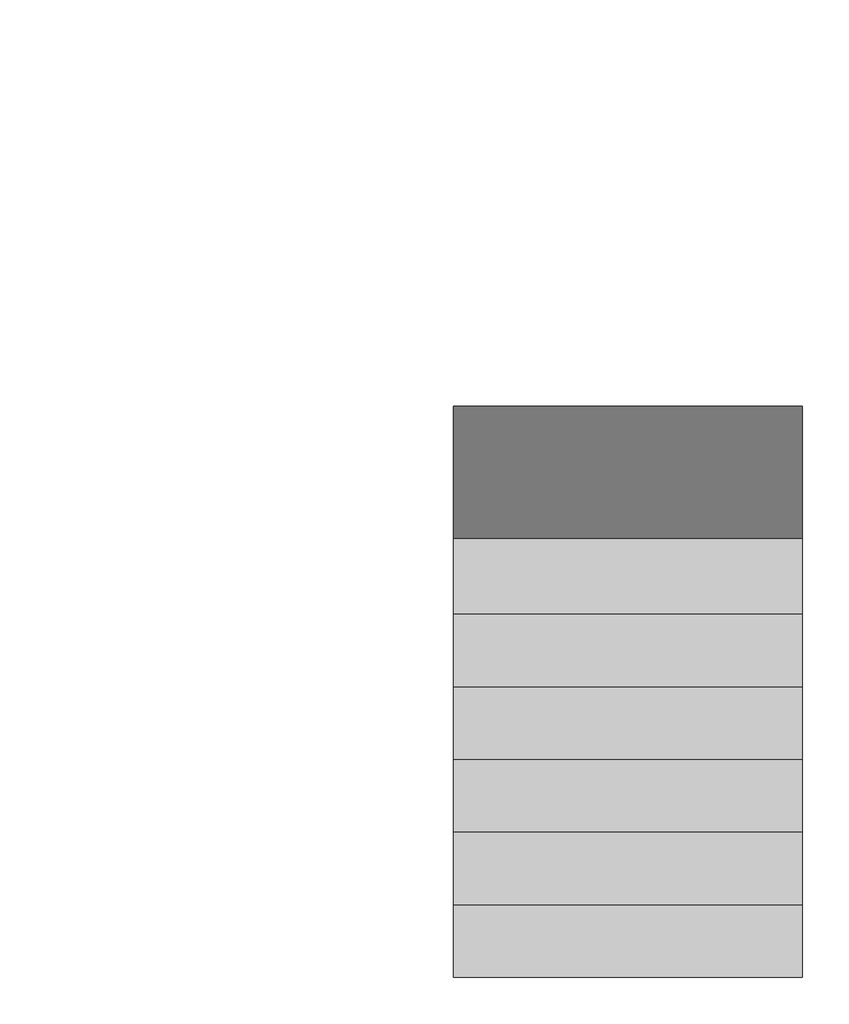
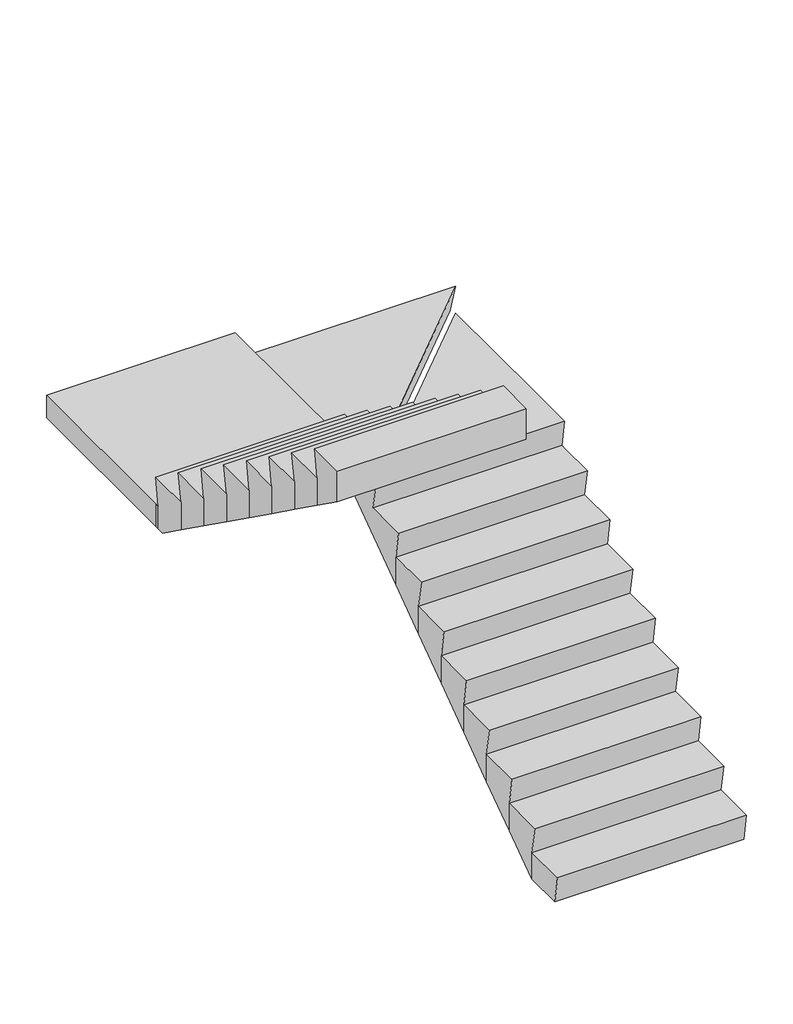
# One storey: 1 stair flight.
"""IFC4 building model written with IfcOpenShell, lengths in millimetres."""

from ifc_helpers import new_model, si_unit, origin, place, context, project, spatial, faceted_brep, element, save

model = new_model("IFC4")

# Units and contexts
model_context = context("Model", 3, world=origin())
ifc_project = project(units=[si_unit("LENGTHUNIT", "METRE", prefix="MILLI")], contexts=[model_context])

# Site, building, storey
site = spatial("IfcSite", under=ifc_project)
building = spatial("IfcBuilding", under=site)
storey = spatial("IfcBuildingStorey", under=building, Name="樓層 1", Elevation=0.0)

# Stair flight
placement = place(None, origin())
element("IfcStairFlight", 1, ObjectType="20mm 踏板 30mm 突沿 10mm 豎板", at=placement, inside=storey, context=model_context, shape_type="Brep", body=[
    faceted_brep([(-1079.3711497, -4219.2158264, 178.9473684), (-2279.3711497, -4219.2158264, 178.9473684), (-2279.3711497, -4189.2158264, 0.0), (-1079.3711497, -4189.2158264, 0.0), (-1079.3711497, -3939.2158264, 178.9473684), (-2279.3711497, -3939.2158264, 178.9473684), (-2279.3711497, -3939.2158264, 0.0), (-1079.3711497, -3939.2158264, 0.0), (-2279.3711497, -3969.2158264, 357.8947368), (-1079.3711497, -3969.2158264, 357.8947368), (-1079.3711497, -3689.2158264, 357.8947368), (-2279.3711497, -3689.2158264, 357.8947368), (-2279.3711497, -3689.2158264, 173.4279977), (-2279.3711497, -3931.5049409, 0.0), (-1079.3711497, -3931.5049409, 0.0), (-1079.3711497, -3689.2158264, 173.4279977), (-2279.3711497, -3719.2158264, 536.8421053), (-1079.3711497, -3719.2158264, 536.8421053), (-1079.3711497, -3439.2158264, 536.8421053), (-2279.3711497, -3439.2158264, 536.8421053), (-2279.3711497, -3439.2158264, 352.3753661), (-1079.3711497, -3439.2158264, 352.3753661), (-2279.3711497, -3469.2158264, 715.7894737), (-1079.3711497, -3469.2158264, 715.7894737), (-1079.3711497, -3189.2158264, 715.7894737), (-2279.3711497, -3189.2158264, 715.7894737), (-2279.3711497, -3189.2158264, 531.3227346), (-1079.3711497, -3189.2158264, 531.3227346), (-2279.3711497, -3219.2158264, 894.7368421), (-1079.3711497, -3219.2158264, 894.7368421), (-1079.3711497, -2939.2158264, 894.7368421), (-2279.3711497, -2939.2158264, 894.7368421), (-2279.3711497, -2939.2158264, 710.270103), (-1079.3711497, -2939.2158264, 710.270103), (-2279.3711497, -2969.2158264, 1073.6842105), (-1079.3711497, -2969.2158264, 1073.6842105), (-1079.3711497, -2689.2158264, 1073.6842105), (-2279.3711497, -2689.2158264, 1073.6842105), (-2279.3711497, -2689.2158264, 889.2174714), (-1079.3711497, -2689.2158264, 889.2174714), (-2279.3711497, -2719.2158264, 1252.6315789), (-1079.3711497, -2719.2158264, 1252.6315789), (-1079.3711497, -2439.2158264, 1252.6315789), (-2279.3711497, -2439.2158264, 1252.6315789), (-2279.3711497, -2439.2158264, 1068.1648398), (-1079.3711497, -2439.2158264, 1068.1648398), (-2279.3711497, -2189.2158264, 1431.5789474), (-2279.3711497, -2469.2158264, 1431.5789474), (-1079.3711497, -2469.2158264, 1431.5789474), (-1079.3711497, -2219.2158264, 1431.5789474), (-1079.3711497, -2189.2158264, 1431.5789474), (-2279.3711497, -2219.2158264, 1610.5263158), (-2279.3711497, -2176.7894195, 1610.5263158), (-2279.3711497, -2183.6525148, 1639.4736842), (-2279.3711497, -1891.0637644, 1639.4736842), (-2279.3711497, -1891.0637644, 1460.5263158), (-1079.3711497, -2219.2158264, 1225.638524), (-1079.3711497, -2219.2158264, 1610.5263158), (-1079.3711497, -1891.0637644, 1610.5263158), (-1079.3711497, -1019.2158264, 1610.5263158), (-1951.2190877, -1891.0637644, 1610.5263158), (-1993.6454945, -1891.0637644, 1610.5263158), (-1079.3711497, -2189.2158264, 1247.1122083), (-1079.3711497, -1891.0637644, 1460.5263158), (-1079.3711497, -1019.2158264, 1460.5263158), (-2279.3711497, -2219.2158264, 1789.4736842), (-1079.3711497, -1019.2158264, 1789.4736842), (-2479.3711497, -1019.2158264, 1789.4736842), (-2479.3711497, -2219.2158264, 1789.4736842), (-2479.3711497, -2219.2158264, 1639.4736842), (-2314.9344613, -2219.2158264, 1639.4736842), (-1114.9344613, -1019.2158264, 1639.4736842), (-2479.3711497, -1019.2158264, 1639.4736842), (-1986.7823993, -1891.0637644, 1639.4736842), (-1951.2190877, -1891.0637644, 1460.5263158)], [[[0, 1, 2, 3]], [[1, 0, 4, 5]], [[1, 5, 6, 2]], [[4, 0, 3, 7]], [[8, 9, 10, 11]], [[6, 5, 8, 11, 12, 13]], [[4, 7, 14, 15, 10, 9]], [[5, 4, 9, 8]], [[16, 17, 18, 19]], [[16, 19, 20, 12, 11]], [[18, 17, 10, 15, 21]], [[11, 10, 17, 16]], [[22, 23, 24, 25]], [[22, 25, 26, 20, 19]], [[24, 23, 18, 21, 27]], [[19, 18, 23, 22]], [[28, 29, 30, 31]], [[28, 31, 32, 26, 25]], [[30, 29, 24, 27, 33]], [[25, 24, 29, 28]], [[34, 35, 36, 37]], [[34, 37, 38, 32, 31]], [[36, 35, 30, 33, 39]], [[31, 30, 35, 34]], [[40, 41, 42, 43]], [[40, 43, 44, 38, 37]], [[42, 41, 36, 39, 45]], [[37, 36, 41, 40]], [[46, 47, 48, 49, 50]], [[46, 51, 52, 53, 54, 55, 44, 43, 47]], [[49, 48, 42, 45, 56]], [[43, 42, 48, 47]], [[51, 57, 58, 59, 60, 61, 52]], [[57, 50, 62, 63, 64, 59, 58]], [[46, 50, 57, 51]], [[65, 66, 67, 68]], [[65, 68, 69, 70]], [[67, 66, 71, 72]], [[66, 65, 70, 53, 52, 61, 73, 71]], [[2, 6, 13, 14, 7, 3]], [[44, 55, 74, 63, 62, 56, 45, 39, 33, 27, 21, 15, 14, 13, 12, 20, 26, 32, 38]], [[74, 55, 54, 73, 61, 60]], [[74, 64, 63]], [[64, 74, 60, 59]], [[69, 72, 71, 73, 54, 53, 70]], [[72, 69, 68, 67]], [[50, 49, 56, 62]]]),
    faceted_brep([(-2479.3711497, -2249.2158264, 1968.4210526), (-2479.3711497, -2219.2158264, 1968.4210526), (-2479.3711497, -1019.2158264, 1968.4210526), (-3679.3711497, -1019.2158264, 1968.4210526), (-3679.3711497, -2219.2158264, 1968.4210526), (-3679.3711497, -2249.2158264, 1968.4210526), (-2479.3711497, -2249.2158264, 1818.4210526), (-2479.3711497, -2219.2158264, 1818.4210526), (-2504.5182085, -1019.2158264, 1818.4210526), (-3679.3711497, -1019.2158264, 1818.4210526), (-2504.5182085, -2219.2158264, 1818.4210526), (-2479.3711497, -2219.2158264, 2147.3684211), (-3679.3711497, -2219.2158264, 2147.3684211), (-3679.3711497, -2297.3678884, 2147.3684211), (-3679.3711497, -2499.2158264, 2147.3684211), (-2479.3711497, -2499.2158264, 2147.3684211), (-2479.3711497, -2297.3678884, 2147.3684211), (-2479.3711497, -2499.2158264, 1962.9016819), (-2479.3711497, -2297.3678884, 1818.4210526), (-3679.3711497, -2249.2158264, 1818.4210526), (-3679.3711497, -2297.3678884, 1818.4210526), (-3679.3711497, -2499.2158264, 1962.9016819), (-2479.3711497, -2469.2158264, 2326.3157895), (-3679.3711497, -2469.2158264, 2326.3157895), (-3679.3711497, -2749.2158264, 2326.3157895), (-2479.3711497, -2749.2158264, 2326.3157895), (-2479.3711497, -2749.2158264, 2141.8490504), (-3679.3711497, -2749.2158264, 2141.8490504), (-2479.3711497, -2719.2158264, 2505.2631579), (-3679.3711497, -2719.2158264, 2505.2631579), (-3679.3711497, -2999.2158264, 2505.2631579), (-2479.3711497, -2999.2158264, 2505.2631579), (-2479.3711497, -2999.2158264, 2320.7964188), (-3679.3711497, -2999.2158264, 2320.7964188), (-2479.3711497, -2969.2158264, 2684.2105263), (-3679.3711497, -2969.2158264, 2684.2105263), (-3679.3711497, -3249.2158264, 2684.2105263), (-2479.3711497, -3249.2158264, 2684.2105263), (-2479.3711497, -3249.2158264, 2499.7437872), (-3679.3711497, -3249.2158264, 2499.7437872), (-2479.3711497, -3219.2158264, 2863.1578947), (-3679.3711497, -3219.2158264, 2863.1578947), (-3679.3711497, -3499.2158264, 2863.1578947), (-2479.3711497, -3499.2158264, 2863.1578947), (-2479.3711497, -3499.2158264, 2678.6911556), (-3679.3711497, -3499.2158264, 2678.6911556), (-2479.3711497, -3469.2158264, 3042.1052632), (-3679.3711497, -3469.2158264, 3042.1052632), (-3679.3711497, -3749.2158264, 3042.1052632), (-2479.3711497, -3749.2158264, 3042.1052632), (-2479.3711497, -3749.2158264, 2857.638524), (-3679.3711497, -3749.2158264, 2857.638524), (-2479.3711497, -3719.2158264, 3221.0526316), (-3679.3711497, -3719.2158264, 3221.0526316), (-3679.3711497, -3999.2158264, 3221.0526316), (-2479.3711497, -3999.2158264, 3221.0526316), (-2479.3711497, -3999.2158264, 3036.5858925), (-3679.3711497, -3999.2158264, 3036.5858925), (-3679.3711497, -2219.2158264, 1818.4210526), (-2479.3711497, -3969.2158264, 3400.0), (-3679.3711497, -3969.2158264, 3400.0), (-3679.3711497, -4219.2158264, 3400.0), (-2479.3711497, -4219.2158264, 3400.0), (-2479.3711497, -4219.2158264, 3194.0595767), (-3679.3711497, -4219.2158264, 3194.0595767)], [[[0, 1, 2, 3, 4, 5]], [[1, 0, 6, 7]], [[3, 2, 8, 9]], [[2, 1, 10, 8]], [[11, 12, 13, 14, 15, 16]], [[0, 11, 16, 15, 17, 18, 6]], [[12, 5, 19, 20, 21, 14, 13]], [[0, 5, 12, 11]], [[22, 23, 24, 25]], [[22, 25, 26, 17, 15]], [[24, 23, 14, 21, 27]], [[15, 14, 23, 22]], [[28, 29, 30, 31]], [[28, 31, 32, 26, 25]], [[30, 29, 24, 27, 33]], [[25, 24, 29, 28]], [[34, 35, 36, 37]], [[34, 37, 38, 32, 31]], [[36, 35, 30, 33, 39]], [[31, 30, 35, 34]], [[40, 41, 42, 43]], [[40, 43, 44, 38, 37]], [[42, 41, 36, 39, 45]], [[37, 36, 41, 40]], [[46, 47, 48, 49]], [[46, 49, 50, 44, 43]], [[48, 47, 42, 45, 51]], [[43, 42, 47, 46]], [[52, 53, 54, 55]], [[52, 55, 56, 50, 49]], [[54, 53, 48, 51, 57]], [[49, 48, 53, 52]], [[18, 20, 19, 58, 9, 8, 10, 7, 6]], [[4, 3, 9, 58]], [[59, 60, 61, 62]], [[59, 62, 63, 56, 55]], [[61, 60, 54, 57, 64]], [[62, 61, 64, 63]], [[55, 54, 60, 59]], [[10, 1, 7]], [[20, 18, 17, 26, 32, 38, 44, 50, 56, 63, 64, 57, 51, 45, 39, 33, 27, 21]], [[5, 4, 58, 19]]]),
])

save(model, "model.ifc")
